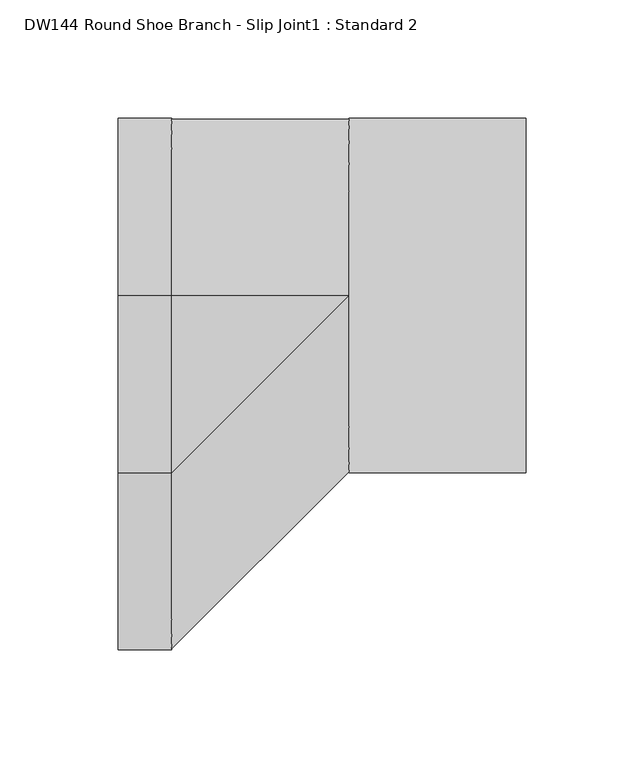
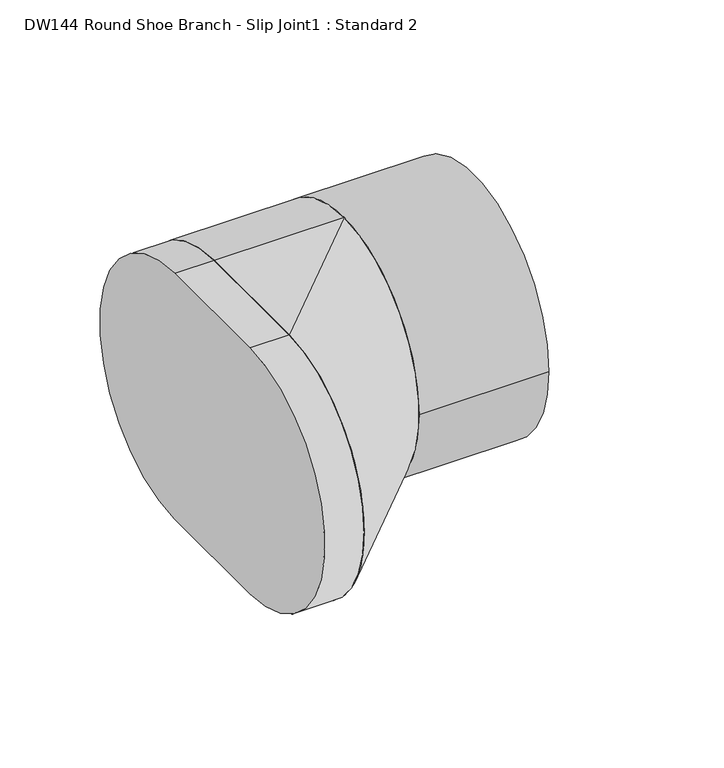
"""IFC4 building model written with IfcOpenShell, lengths in millimetres: duct fitting geometry, DW144 Round Shoe Branch - Slip Joint1 : Standard 2."""

from ifc_helpers import new_model, si_unit, point, frame, frame_2d, origin, origin_2d, place, context, project, spatial, polyline, circle_curve, trimmed, segment, composite_curve, outline, extrude, source, transform, mapped, element, save
from ifc_brep_helpers import plane_surface, cylinder_surface, extruded_surface, advanced_brep


def dw144_round_shoe_branch_slip_joint1_standard_2_4a3818cc(model_context):
    return source(origin(), model_context, "Body", "SolidModel", [
        extrude(outline(composite_curve([segment(trimmed(circle_curve(origin_2d(), 75.0), [point((-75.0, 0.0))], [point((75.0, 0.0))], False, "CARTESIAN"), True, "CONTINUOUS"), segment(trimmed(circle_curve(origin_2d(), 75.0), [point((75.0, 0.0))], [point((-75.0, 0.0))], False, "CARTESIAN"), True, "CONTINUOUS")], self_intersect=False)), frame((75.0, 0.0, 0.0), z_axis=(1.0, 0.0, 0.0), x_axis=(0.0, 1.0, 0.0)), (0.0, 0.0, 1.0), 75.0),
        advanced_brep(
        [(75.0, 0.0, -75.0), (75.0, 0.0, 75.0), (0.0, 0.0, -75.0), (0.0, -75.0, -75.0), (0.0, -75.0, 75.0), (0.0, 0.0, 75.0)],
        [
            (0, 1, circle_curve(frame((75.0, 0.0, 0.0), z_axis=(1.0, 0.0, 0.0), x_axis=(0.0, 1.0, 0.0)), 75.0)),
            (1, 0, circle_curve(frame((75.0, 0.0, 0.0), z_axis=(1.0, 0.0, 0.0), x_axis=(0.0, 1.0, 0.0)), 75.0)),
            (2, 3),
            (3, 4, circle_curve(frame((0.0, -75.0, 0.0), z_axis=(-1.0, 0.0, 0.0), x_axis=(0.0, 1.0, 0.0)), 75.0)),
            (4, 5),
            (5, 2, circle_curve(frame((0.0, 0.0, 0.0), z_axis=(-1.0, 0.0, 0.0), x_axis=(0.0, 1.0, 0.0)), 75.0)),
            (5, 1),
            (0, 2),
            (4, 1),
            (3, 0),
        ],
        [
            plane_surface(frame((75.0, 0.0, 0.0), z_axis=(1.0, 0.0, 0.0), x_axis=(0.0, 1.0, 0.0))),
            plane_surface(frame((0.0, -37.5, 0.0), z_axis=(-1.0, 0.0, 0.0), x_axis=(0.0, 1.0, 0.0))),
            cylinder_surface(frame((0.0, 0.0, 0.0), z_axis=(1.0, 0.0, 0.0), x_axis=(0.0, 1.0, 0.0)), 75.0),
            plane_surface(frame((0.0, -37.5, 75.0), z_axis=(0.0, 0.0, 1.0), x_axis=(0.0, -1.0, 0.0))),
            extruded_surface(trimmed(circle_curve(frame((0.0, -75.0, 0.0), z_axis=(1.0, 0.0, 0.0), x_axis=(0.0, 1.0, 0.0)), 75.0), [point((0.0, -75.0, 75.0))], [point((0.0, -75.0, -75.0))], True, "CARTESIAN"), (75.0, 75.0, 0.0), 106.06601717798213),
            plane_surface(frame((0.0, -37.5, -75.0), z_axis=(0.0, 0.0, -1.0), x_axis=(0.0, 1.0, 0.0))),
        ],
        [
            (0, [[1, 2]]),
            (1, [[3, 4, 5, 6]]),
            (2, [[-6, 7, -1, 8]]),
            (3, [[-5, 9, -7]]),
            (4, [[-4, 10, -2, -9]]),
            (5, [[-3, -8, -10]]),
        ],
    ),
        extrude(outline(composite_curve([segment(polyline([(0.0, -75.0), (-75.0, -75.0)]), True, "CONTINUOUS"), segment(trimmed(circle_curve(frame_2d((-75.0, 0.0)), 75.0), [point((-75.0, -75.0))], [point((-75.0, 75.0))], False, "CARTESIAN"), True, "CONTINUOUS"), segment(polyline([(-75.0, 75.0), (0.0, 75.0)]), True, "CONTINUOUS"), segment(trimmed(circle_curve(origin_2d(), 75.0), [point((0.0, 75.0))], [point((0.0, -75.0))], False, "CARTESIAN"), True, "CONTINUOUS")], self_intersect=False)), frame((-22.7194946, 0.0, 0.0), z_axis=(1.0, 0.0, 0.0), x_axis=(0.0, 1.0, 0.0)), (0.0, 0.0, 1.0), 22.7194946),
    ])


if __name__ == "__main__":
    model = new_model("IFC4")
    model_context = context("Model", 3, world=origin())
    ifc_project = project(units=[si_unit("LENGTHUNIT", "METRE", prefix="MILLI")], contexts=[model_context])
    site = spatial("IfcSite", under=ifc_project)
    building = spatial("IfcBuilding", under=site)
    placement = place(None, origin())
    dw144_round_shoe_branch_slip_joint1_standard_2_shape = dw144_round_shoe_branch_slip_joint1_standard_2_4a3818cc(model_context)
    element("IfcDuctFitting", 1, ObjectType="DW144 Round Shoe Branch - Slip Joint1 : Standard 2", at=placement, inside=building, context=model_context, shape_type="MappedRepresentation", body=[
        mapped(dw144_round_shoe_branch_slip_joint1_standard_2_shape, transform((0.0, 0.0, 0.0), x_axis=(1.0, 0.0, 0.0), y_axis=(0.0, 1.0, 0.0), z_axis=(0.0, 0.0, 1.0))),
    ])
    save(model, "model.ifc")
